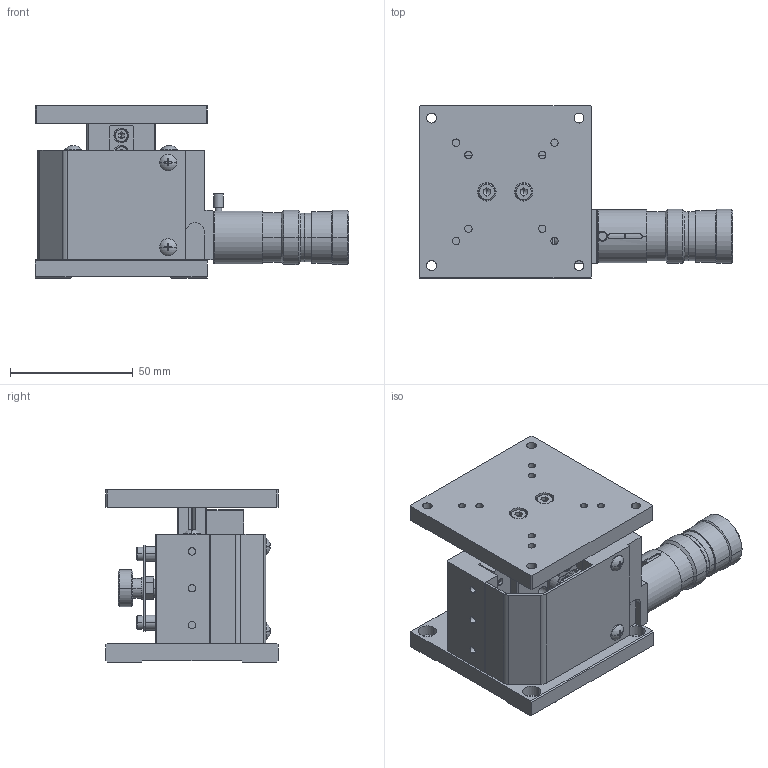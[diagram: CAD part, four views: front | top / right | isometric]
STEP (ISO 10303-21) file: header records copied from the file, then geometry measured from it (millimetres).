
FILE_DESCRIPTION (( 'STEP AP214' ), '1' );
FILE_NAME ('ZM07A-S3K-R.STEP', '2009-04-20T02:26:13', ( ' ' ), ( ' ' ), 'SwSTEP 2.0', 'SolidWorks 2008', '' );
FILE_SCHEMA (( 'AUTOMOTIVE_DESIGN' ));
Length unit declared in the file: millimetre
Products named in the file (5): 000310-1020(3D)-1; FFP03-13(spindle); 004550-1011(3D)-1; ZM07A-S3K-R; 004610-1220(3D)-1
Assembly tree (4 placements, depth 2):
  ZM07A-S3K-R
    FFP03-13(spindle)
    000310-1020(3D)-1
    004550-1011(3D)-1
    004610-1220(3D)-1
Bounding box: 127.5 x 70 x 70 mm (x, y, z)
Volume: 173626 mm3; surface area: 73573.1 mm2
Topology: 4 solids, 52 shells, 1589 faces, 3591 edges, 2121 vertices
Faces by surface type: plane 736, cylinder 513, cone 319, sphere 13, torus 8
Entity records: 44307 total; most frequent: DIRECTION 8136, CARTESIAN_POINT 7867, ORIENTED_EDGE 7022, EDGE_CURVE 3511, AXIS2_PLACEMENT_3D 3098, VERTEX_POINT 2123, VECTOR 1940, LINE 1940
